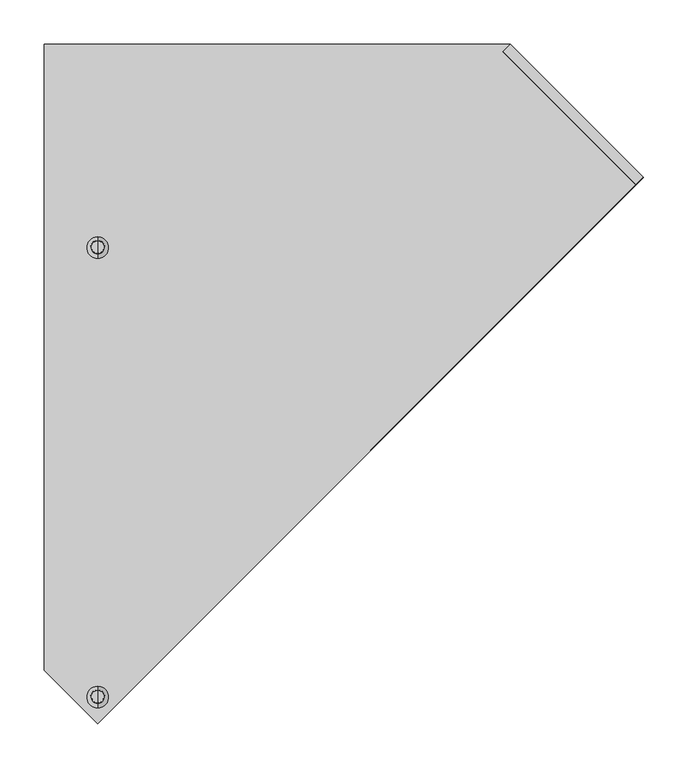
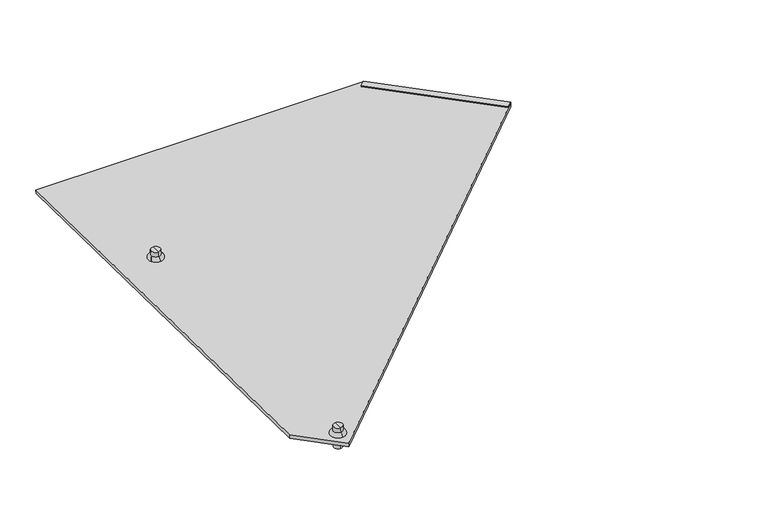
"""IFC4 building model written with IfcOpenShell, lengths in millimetres: proxy geometry, Roofing_Panels_SunStyle_Tuile_Coin-Haut-Grand-Gauche : Coin Haut Grand Gauche - Noir."""

from ifc_helpers import new_model, si_unit, point, frame, frame_2d, origin, place, context, project, spatial, polyline, circle_curve, ellipse_curve, trimmed, segment, composite_curve, outline, extrude, source, transform, mapped, element, save
from ifc_brep_helpers import plane_surface, cylinder_surface, revolved_surface, advanced_brep


def generic_models_c61de7e8(model_context):
    return source(origin(), model_context, "Body", "SolidModel", [
        advanced_brep(
        [(0.0, -85.8978443, 17.7421994), (0.0, -72.5647638, 17.5189035), (0.0, -72.9330728, -4.4729659), (0.0, -86.2661534, -4.2496699), (0.0, -91.3970731, 17.8342978), (0.0, -67.0655349, 17.4268051), (0.0, -86.4480768, 22.7481046), (0.0, -71.8472139, 22.5035765), (0.0, -79.0136169, 30.6287287), (0.0, -71.7131854, 30.5064647), (0.0, -86.3140484, 30.7509928), (0.0, -79.5996131, -4.3613179)],
        [
            (0, 1, circle_curve(frame((0.0, -79.231304, 17.6305515), z_axis=(0.0, -0.016745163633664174, -0.9998597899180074), x_axis=(0.0, 0.9998597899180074, -0.016745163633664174)), 6.6674751)),
            (1, 2),
            (2, 3, circle_curve(frame((0.0, -79.5996131, -4.3613179), z_axis=(0.0, 0.016745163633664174, 0.9998597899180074), x_axis=(0.0, 0.9998597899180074, -0.016745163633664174)), 6.6674751)),
            (3, 0),
            (1, 0, circle_curve(frame((0.0, -79.231304, 17.6305515), z_axis=(0.0, -0.016745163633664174, -0.9998597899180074), x_axis=(0.0, 0.9998597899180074, -0.016745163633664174)), 6.6674751)),
            (3, 2, circle_curve(frame((0.0, -79.5996131, -4.3613179), z_axis=(0.0, 0.016745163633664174, 0.9998597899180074), x_axis=(0.0, 0.9998597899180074, -0.016745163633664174)), 6.6674751)),
            (4, 5, circle_curve(frame((0.0, -79.231304, 17.6305515), z_axis=(0.0, -0.016745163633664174, -0.9998597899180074), x_axis=(0.0, 0.9998597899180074, -0.016745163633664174)), 12.1674751)),
            (5, 1),
            (0, 4),
            (5, 4, circle_curve(frame((0.0, -79.231304, 17.6305515), z_axis=(0.0, -0.016745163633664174, -0.9998597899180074), x_axis=(0.0, 0.9998597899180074, -0.016745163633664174)), 12.1674751)),
            (6, 7, circle_curve(frame((0.0, -79.1476454, 22.6258405), z_axis=(0.0, -0.016745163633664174, -0.9998597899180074), x_axis=(0.0, 0.9998597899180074, -0.016745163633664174)), 7.3014552)),
            (7, 5, circle_curve(frame((0.0, -72.1514118, 17.4268051), z_axis=(-1.0, 0.0, 0.0), x_axis=(0.0, -1.0, 0.0)), 5.0858769)),
            (4, 6, circle_curve(frame((0.0, -86.3140484, 17.663994), z_axis=(-1.0, 0.0, 0.0), x_axis=(0.0, 0.9994391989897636, -0.03348563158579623)), 5.0858769)),
            (7, 6, circle_curve(frame((0.0, -79.1476454, 22.6258405), z_axis=(0.0, -0.016745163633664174, -0.9998597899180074), x_axis=(0.0, 0.9998597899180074, -0.016745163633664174)), 7.3014552)),
            (8, 9),
            (9, 10, circle_curve(frame((0.0, -79.0136169, 30.6287287), z_axis=(0.0, 0.016745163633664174, 0.9998597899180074), x_axis=(0.0, 0.9998597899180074, -0.016745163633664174)), 7.3014552)),
            (10, 8),
            (10, 9, circle_curve(frame((0.0, -79.0136169, 30.6287287), z_axis=(0.0, 0.016745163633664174, 0.9998597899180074), x_axis=(0.0, 0.9998597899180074, -0.016745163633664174)), 7.3014552)),
            (2, 11),
            (11, 3),
            (9, 7),
            (6, 10),
        ],
        [
            cylinder_surface(frame((0.0, -79.0136169, 30.6287287), z_axis=(0.0, 0.016745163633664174, 0.9998597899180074), x_axis=(0.0, 0.9998597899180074, -0.016745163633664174)), 6.6674751),
            plane_surface(frame((0.0, -79.231304, 17.6305515), z_axis=(0.0, -0.016745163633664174, -0.9998597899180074), x_axis=(0.0, 0.9998597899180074, -0.016745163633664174))),
            revolved_surface(trimmed(ellipse_curve(frame((0.0, -72.1514118, 17.4268051), z_axis=(1.0, 0.0, 0.0), x_axis=(0.0, -1.0, 0.0)), 5.0858769, 5.0858769), [point((0.0, -67.0655349, 17.4268051))], [point((0.0, -71.8472139, 22.5035765))], True, "CARTESIAN"), (0.0, -79.0136169, 30.6287287), (0.0, 0.016745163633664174, 0.9998597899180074)),
            plane_surface(frame((0.0, -79.0136169, 30.6287287), z_axis=(0.0, 0.016745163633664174, 0.9998597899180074), x_axis=(0.0, 0.9998597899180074, -0.016745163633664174))),
            plane_surface(frame((0.0, -79.5996131, -4.3613179), z_axis=(0.0, -0.016745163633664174, -0.9998597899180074), x_axis=(0.0, 0.9998597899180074, -0.016745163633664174))),
            cylinder_surface(frame((0.0, -79.0136169, 30.6287287), z_axis=(0.0, 0.016745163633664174, 0.9998597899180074), x_axis=(0.0, 0.9998597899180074, -0.016745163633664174)), 7.3014552),
        ],
        [
            (0, [[1, 2, 3, 4]]),
            (0, [[5, -4, 6, -2]]),
            (1, [[7, 8, -1, 9]]),
            (1, [[10, -9, -5, -8]]),
            (2, [[11, 12, -7, 13]]),
            (2, [[14, -13, -10, -12]]),
            (3, [[15, 16, 17]]),
            (3, [[-17, 18, -15]]),
            (4, [[-3, 19, 20]]),
            (4, [[-6, -20, -19]]),
            (5, [[-16, 21, -11, 22]]),
            (5, [[-18, -22, -14, -21]]),
        ],
    ),
        advanced_brep(
        [(0.0, -592.202006, 26.2215343), (0.0, -578.8689254, 25.9982384), (0.0, -579.2372345, 4.0063691), (0.0, -592.5703151, 4.229665), (0.0, -597.7012348, 26.3136327), (0.0, -573.3696966, 25.90614), (0.0, -592.7522385, 31.2274395), (0.0, -578.1513756, 30.9829114), (0.0, -585.3177786, 39.1080636), (0.0, -578.0173471, 38.9857996), (0.0, -592.6182101, 39.2303277), (0.0, -585.9037748, 4.118017)],
        [
            (0, 1, circle_curve(frame((0.0, -585.5354657, 26.1098864), z_axis=(0.0, -0.016745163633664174, -0.9998597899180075), x_axis=(0.0, 0.9998597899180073, -0.01674516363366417)), 6.6674751)),
            (1, 2),
            (2, 3, circle_curve(frame((0.0, -585.9037748, 4.118017), z_axis=(0.0, 0.016745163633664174, 0.9998597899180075), x_axis=(0.0, 0.9998597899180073, -0.01674516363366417)), 6.6674751)),
            (3, 0),
            (1, 0, circle_curve(frame((0.0, -585.5354657, 26.1098864), z_axis=(0.0, -0.016745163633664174, -0.9998597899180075), x_axis=(0.0, 0.9998597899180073, -0.01674516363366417)), 6.6674751)),
            (3, 2, circle_curve(frame((0.0, -585.9037748, 4.118017), z_axis=(0.0, 0.016745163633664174, 0.9998597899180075), x_axis=(0.0, 0.9998597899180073, -0.01674516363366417)), 6.6674751)),
            (4, 5, circle_curve(frame((0.0, -585.5354657, 26.1098864), z_axis=(0.0, -0.016745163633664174, -0.9998597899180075), x_axis=(0.0, 0.9998597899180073, -0.01674516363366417)), 12.1674751)),
            (5, 1),
            (0, 4),
            (5, 4, circle_curve(frame((0.0, -585.5354657, 26.1098864), z_axis=(0.0, -0.016745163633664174, -0.9998597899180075), x_axis=(0.0, 0.9998597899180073, -0.01674516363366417)), 12.1674751)),
            (6, 7, circle_curve(frame((0.0, -585.451807, 31.1051755), z_axis=(0.0, -0.016745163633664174, -0.9998597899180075), x_axis=(0.0, 0.9998597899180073, -0.01674516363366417)), 7.3014552)),
            (7, 5, circle_curve(frame((0.0, -578.4555735, 25.90614), z_axis=(-1.0, 0.0, 0.0), x_axis=(0.0, -1.0, 0.0)), 5.0858769)),
            (4, 6, circle_curve(frame((0.0, -592.6182101, 26.1433289), z_axis=(-1.0, 0.0, 0.0), x_axis=(0.0, 0.9994391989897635, -0.03348563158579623)), 5.0858769)),
            (7, 6, circle_curve(frame((0.0, -585.451807, 31.1051755), z_axis=(0.0, -0.016745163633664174, -0.9998597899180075), x_axis=(0.0, 0.9998597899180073, -0.01674516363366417)), 7.3014552)),
            (8, 9),
            (9, 10, circle_curve(frame((0.0, -585.3177786, 39.1080636), z_axis=(0.0, 0.016745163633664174, 0.9998597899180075), x_axis=(0.0, 0.9998597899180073, -0.01674516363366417)), 7.3014552)),
            (10, 8),
            (10, 9, circle_curve(frame((0.0, -585.3177786, 39.1080636), z_axis=(0.0, 0.016745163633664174, 0.9998597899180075), x_axis=(0.0, 0.9998597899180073, -0.01674516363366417)), 7.3014552)),
            (2, 11),
            (11, 3),
            (9, 7),
            (6, 10),
        ],
        [
            cylinder_surface(frame((0.0, -585.3177786, 39.1080636), z_axis=(0.0, 0.01674516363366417, 0.9998597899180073), x_axis=(0.0, 0.9998597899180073, -0.01674516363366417)), 6.6674751),
            plane_surface(frame((0.0, -585.5354657, 26.1098864), z_axis=(0.0, -0.016745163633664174, -0.9998597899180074), x_axis=(0.0, 0.9998597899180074, -0.016745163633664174))),
            revolved_surface(trimmed(ellipse_curve(frame((0.0, -578.4555735, 25.90614), z_axis=(1.0, 0.0, 0.0), x_axis=(0.0, -1.0, 0.0)), 5.0858769, 5.0858769), [point((0.0, -573.3696966, 25.90614))], [point((0.0, -578.1513756, 30.9829114))], True, "CARTESIAN"), (0.0, -585.3177786, 39.1080636), (0.0, 0.01674516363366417, 0.9998597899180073)),
            plane_surface(frame((0.0, -585.3177786, 39.1080636), z_axis=(0.0, 0.016745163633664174, 0.9998597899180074), x_axis=(0.0, 0.9998597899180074, -0.016745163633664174))),
            plane_surface(frame((0.0, -585.9037748, 4.118017), z_axis=(0.0, -0.016745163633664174, -0.9998597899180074), x_axis=(0.0, 0.9998597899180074, -0.016745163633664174))),
            cylinder_surface(frame((0.0, -585.3177786, 39.1080636), z_axis=(0.0, 0.01674516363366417, 0.9998597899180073), x_axis=(0.0, 0.9998597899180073, -0.01674516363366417)), 7.3014552),
        ],
        [
            (0, [[1, 2, 3, 4]]),
            (0, [[5, -4, 6, -2]]),
            (1, [[7, 8, -1, 9]]),
            (1, [[10, -9, -5, -8]]),
            (2, [[11, 12, -7, 13]]),
            (2, [[14, -13, -10, -12]]),
            (3, [[15, 16, 17]]),
            (3, [[-17, 18, -15]]),
            (4, [[-3, 19, 20]]),
            (4, [[-6, -20, -19]]),
            (5, [[-16, 21, -11, 22]]),
            (5, [[-18, -22, -14, -21]]),
        ],
    ),
        extrude(outline(polyline([(0.0, -11.9999999), (0.0, 0.0), (211.9535765, 0.0), (211.9535765, -12.0), (0.0, -11.9999999)])), frame((606.7847845, -8.5982257, 16.4476231), z_axis=(0.0, 0.016745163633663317, 0.9998597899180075), x_axis=(-0.7071563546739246, 0.706958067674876, -0.011839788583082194)), (0.0, 0.0, 1.0), 1.5),
        extrude(outline(polyline([(-0.0194642, 0.0), (149.8648543, -149.8633032), (-465.4042941, -765.0461847), (-525.5083705, -704.9505355), (-525.5083705, 0.0), (-0.0194642, 0.0)]), holes=[composite_curve([segment(trimmed(circle_curve(frame_2d((-465.4046166, -735.3672387)), 8.0), [point((-473.4046166, -735.3672387))], [point((-457.4046166, -735.3672387))], True, "CARTESIAN"), True, "CONTINUOUS"), segment(trimmed(circle_curve(frame_2d((-465.4046166, -735.3672387)), 8.0), [point((-457.4046166, -735.3672387))], [point((-473.4046166, -735.3672387))], True, "CARTESIAN"), True, "CONTINUOUS")], self_intersect=False), composite_curve([segment(trimmed(circle_curve(frame_2d((-465.4046166, -228.9505355)), 8.0), [point((-473.4046166, -228.9505355))], [point((-457.4046166, -228.9505355))], True, "CARTESIAN"), True, "CONTINUOUS"), segment(trimmed(circle_curve(frame_2d((-465.4046166, -228.9505355)), 8.0), [point((-457.4046166, -228.9505355))], [point((-473.4046166, -228.9505355))], True, "CARTESIAN"), True, "CONTINUOUS")], self_intersect=False)]), frame((465.4046166, 149.6282806, 7.7968815), z_axis=(0.0, 0.01674516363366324, 0.9998597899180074), x_axis=(1.0, 0.0, 0.0)), (0.0, 0.0, 1.0), 6.0),
    ])


if __name__ == "__main__":
    model = new_model("IFC4")
    model_context = context("Model", 3, world=origin())
    ifc_project = project(units=[si_unit("LENGTHUNIT", "METRE", prefix="MILLI")], contexts=[model_context])
    site = spatial("IfcSite", under=ifc_project)
    building = spatial("IfcBuilding", under=site)
    placement = place(None, origin())
    generic_models_shape = generic_models_c61de7e8(model_context)
    element("IfcBuildingElementProxy", 1, Name="Roofing_Panels_SunStyle_Tuile_Coin-Haut-Grand-Gauche : Coin Haut Grand Gauche - Noir", ObjectType="Roofing_Panels_SunStyle_Tuile_Coin-Haut-Grand-Gauche : Coin Haut Grand Gauche - Noir", at=placement, inside=building, context=model_context, shape_type="MappedRepresentation", body=[
        mapped(generic_models_shape, transform((0.0, 0.0, 0.0), x_axis=(1.0, 0.0, 0.0), y_axis=(0.0, 1.0, 0.0), z_axis=(0.0, 0.0, 1.0))),
    ])
    save(model, "model.ifc")
